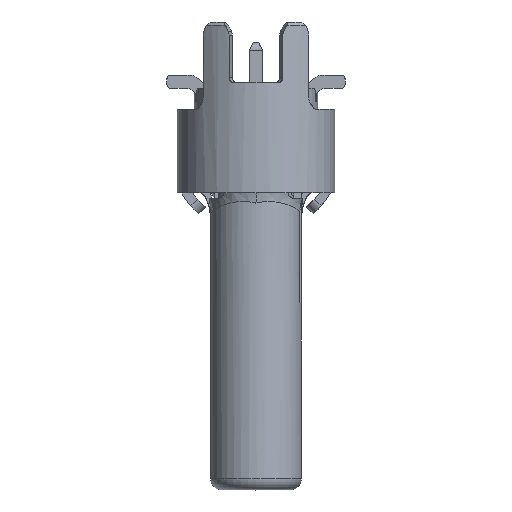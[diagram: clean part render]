
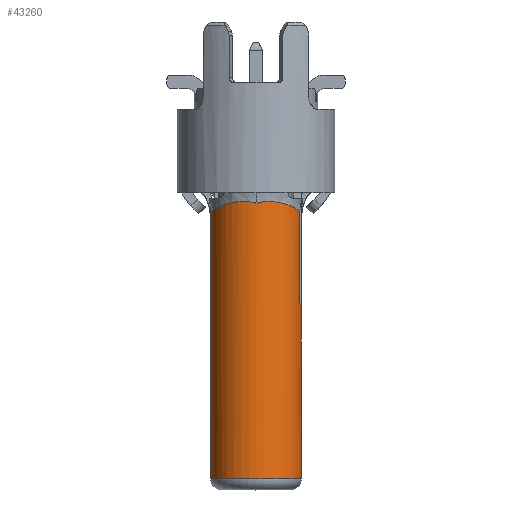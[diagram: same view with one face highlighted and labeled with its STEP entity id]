
A CAD part, left-side view. The second image highlights one B-rep face of the part: STEP entity #43260.
In plain terms, the highlighted cylindrical face has radius 1.2 mm (diameter 2.4 mm), a partial arc.
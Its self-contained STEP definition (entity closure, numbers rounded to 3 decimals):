
#7869=CARTESIAN_POINT('',(-2.925,0.,4.78));
#7870=DIRECTION('',(0.,0.,1.));
#7871=DIRECTION('',(-0.259,-0.966,0.));
#7872=AXIS2_PLACEMENT_3D('',#7869,#7870,#7871);
#7882=DIRECTION('',(0.,0.,-1.));
#7883=VECTOR('',#7882,2.406);
#7884=CARTESIAN_POINT('',(-3.235,-1.159,
7.186));
#7885=LINE('',#7884,#7883);
#7886=DIRECTION('',(0.,0.,-1.));
#7887=VECTOR('',#7886,4.64);
#7888=CARTESIAN_POINT('',(-2.925,-1.2,4.78));
#7889=LINE('',#7888,#7887);
#7890=DIRECTION('',(0.,0.,1.));
#7891=VECTOR('',#7890,6.947);
#7892=CARTESIAN_POINT('',(-2.925,1.2,0.14));
#7893=LINE('',#7892,#7891);
#7894=CARTESIAN_POINT('',(-2.925,1.2,7.087));
#7895=CARTESIAN_POINT('',(-2.989,1.2,7.108));
#7896=CARTESIAN_POINT('',(-3.128,1.189,7.152));
#7897=CARTESIAN_POINT('',(-3.339,1.134,7.219));
#7898=CARTESIAN_POINT('',(-3.547,1.035,7.287));
#7899=CARTESIAN_POINT('',(-3.731,0.899,
7.35));
#7900=CARTESIAN_POINT('',(-3.881,0.736,
7.403));
#7901=CARTESIAN_POINT('',(-3.993,0.56,
7.441));
#7902=CARTESIAN_POINT('',(-4.069,0.378,
7.458));
#7903=CARTESIAN_POINT('',(-4.113,0.197,
7.451));
#7904=CARTESIAN_POINT('',(-4.124,0.071,
7.428));
#7905=CARTESIAN_POINT('',(-4.125,0.007,
7.41));
#7906=CARTESIAN_POINT('',(-4.125,0.,
7.408));
#7908=CARTESIAN_POINT('',(-4.125,0.,
7.408));
#7909=CARTESIAN_POINT('',(-4.125,-0.061,
7.425));
#7910=CARTESIAN_POINT('',(-4.116,-0.187,
7.45));
#7911=CARTESIAN_POINT('',(-4.069,-0.38,
7.459));
#7912=CARTESIAN_POINT('',(-3.985,-0.576,
7.439));
#7913=CARTESIAN_POINT('',(-3.855,-0.771,
7.394));
#7914=CARTESIAN_POINT('',(-3.681,-0.943,
7.332));
#7915=CARTESIAN_POINT('',(-3.472,-1.078,
7.261));
#7916=CARTESIAN_POINT('',(-3.316,-1.138,
7.212));
#7917=CARTESIAN_POINT('',(-3.235,-1.159,
7.186));
#7947=CARTESIAN_POINT('',(-2.925,0.,0.14));
#7948=DIRECTION('',(0.,0.,1.));
#7949=DIRECTION('',(0.,1.,0.));
#7950=AXIS2_PLACEMENT_3D('',#7947,#7948,#7949);
#7952=CARTESIAN_POINT('',(-2.925,0.,0.14));
#7953=DIRECTION('',(0.,0.,1.));
#7954=DIRECTION('',(-0.024,1.,0.));
#7955=AXIS2_PLACEMENT_3D('',#7952,#7953,#7954);
#31071=CARTESIAN_POINT('',(-2.925,1.2,
7.087));
#34237=VERTEX_POINT('',#31071);
#34238=VERTEX_POINT('',#7906);
#34302=CARTESIAN_POINT('',(-2.925,-1.2,0.14));
#34303=VERTEX_POINT('',#34302);
#34304=CARTESIAN_POINT('',(-2.925,-1.2,4.78));
#34305=VERTEX_POINT('',#34304);
#34332=CARTESIAN_POINT('',(-3.235,-1.159,
7.186));
#34333=CARTESIAN_POINT('',(-3.235,-1.159,
4.78));
#34334=VERTEX_POINT('',#34332);
#34335=VERTEX_POINT('',#34333);
#34336=CARTESIAN_POINT('',(-2.954,1.2,0.14));
#34337=VERTEX_POINT('',#34336);
#34338=CARTESIAN_POINT('',(-2.925,1.2,0.14));
#34339=VERTEX_POINT('',#34338);
#43242=CARTESIAN_POINT('',(-2.925,0.,-0.006));
#43243=DIRECTION('',(0.,0.,1.));
#43244=DIRECTION('',(0.,-1.,0.));
#43245=AXIS2_PLACEMENT_3D('',#43242,#43243,#43244);
#43246=CYLINDRICAL_SURFACE('',#43245,1.2);
#43247=ORIENTED_EDGE('',*,*,#43225,.T.);
#43248=ORIENTED_EDGE('',*,*,#43235,.T.);
#43249=ORIENTED_EDGE('',*,*,#43084,.T.);
#43251=ORIENTED_EDGE('',*,*,#43250,.F.);
#43253=ORIENTED_EDGE('',*,*,#43252,.F.);
#43255=ORIENTED_EDGE('',*,*,#43254,.T.);
#43256=ORIENTED_EDGE('',*,*,#42671,.T.);
#43257=ORIENTED_EDGE('',*,*,#43202,.T.);
#43258=EDGE_LOOP('',(#43247,#43248,#43249,#43251,#43253,#43255,#43256,#43257));
#43259=FACE_OUTER_BOUND('',#43258,.F.);
#43260=ADVANCED_FACE('',(#43259),#43246,.T.);
#7873=CIRCLE('',#7872,1.2);
#7907=B_SPLINE_CURVE_WITH_KNOTS('',3,(#7894,#7895,#7896,#7897,#7898,#7899,#7900,
#7901,#7902,#7903,#7904,#7905,#7906),.UNSPECIFIED.,.F.,.F.,(4,1,1,1,1,1,1,1,1,1,
4),(0.,0.105,0.228,0.351,
0.472,0.589,0.698,0.8,
0.897,0.989,1.),.UNSPECIFIED.);
#7918=B_SPLINE_CURVE_WITH_KNOTS('',3,(#7908,#7909,#7910,#7911,#7912,#7913,#7914,
#7915,#7916,#7917),.UNSPECIFIED.,.F.,.F.,(4,1,1,1,1,1,1,4),(0.,
0.143,0.286,0.429,0.571,
0.714,0.857,1.),.UNSPECIFIED.);
#7951=CIRCLE('',#7950,1.2);
#7956=CIRCLE('',#7955,1.2);
#42671=EDGE_CURVE('',#34237,#34238,#7907,.T.);
#43084=EDGE_CURVE('',#34305,#34303,#7889,.T.);
#43202=EDGE_CURVE('',#34238,#34334,#7918,.T.);
#43225=EDGE_CURVE('',#34334,#34335,#7885,.T.);
#43235=EDGE_CURVE('',#34335,#34305,#7873,.T.);
#43250=EDGE_CURVE('',#34337,#34303,#7956,.T.);
#43252=EDGE_CURVE('',#34339,#34337,#7951,.T.);
#43254=EDGE_CURVE('',#34339,#34237,#7893,.T.);
